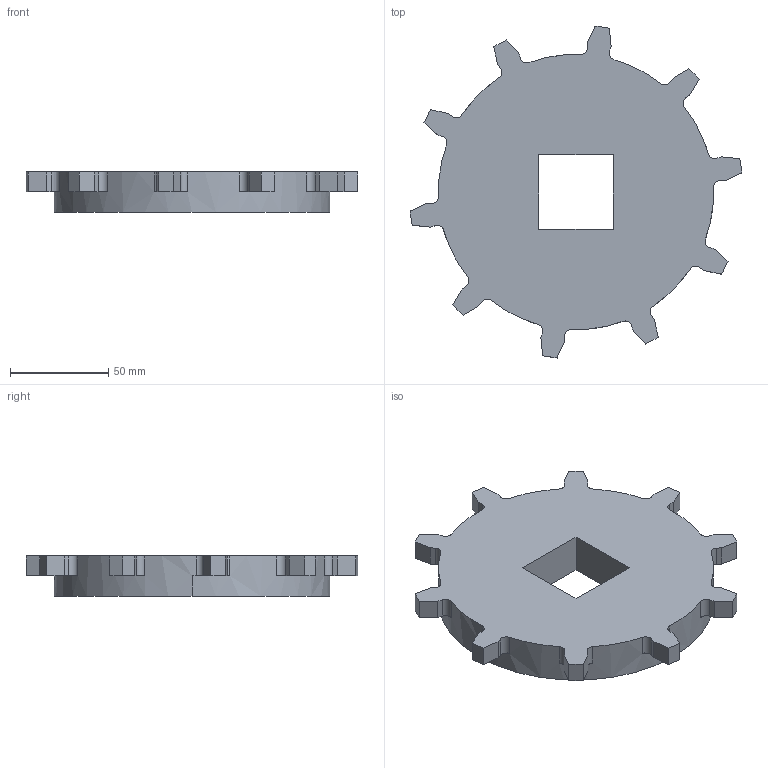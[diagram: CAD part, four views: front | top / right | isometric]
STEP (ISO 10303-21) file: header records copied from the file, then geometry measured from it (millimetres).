
FILE_DESCRIPTION((''),'2;1');
FILE_NAME('S2600_HALF_TOOTH_65_SQ','2012-07-05T',('rklein'),('INTRALOX'),'PRO/ENGINEER BY PARAMETRIC TECHNOLOGY CORPORATION, 2009460','PRO/ENGINEER BY PARAMETRIC TECHNOLOGY CORPORATION, 2009460','');
FILE_SCHEMA(('CONFIG_CONTROL_DESIGN'));
Length unit declared in the file: inch
Products named in the file (1): S2600_HALF_TOOTH_65_SQ
Bounding box: 168.73 x 168.73 x 20.45 mm (x, y, z)
Volume: 301191.9 mm3; surface area: 45684.8 mm2
Topology: 1 solids, 1 shells, 88 faces, 258 edges, 172 vertices
Faces by surface type: plane 66, cylinder 22
Entity records: 2970 total; most frequent: CARTESIAN_POINT 518, ORIENTED_EDGE 516, DIRECTION 498, EDGE_CURVE 258, VECTOR 194, LINE 194, VERTEX_POINT 172, AXIS2_PLACEMENT_3D 152
